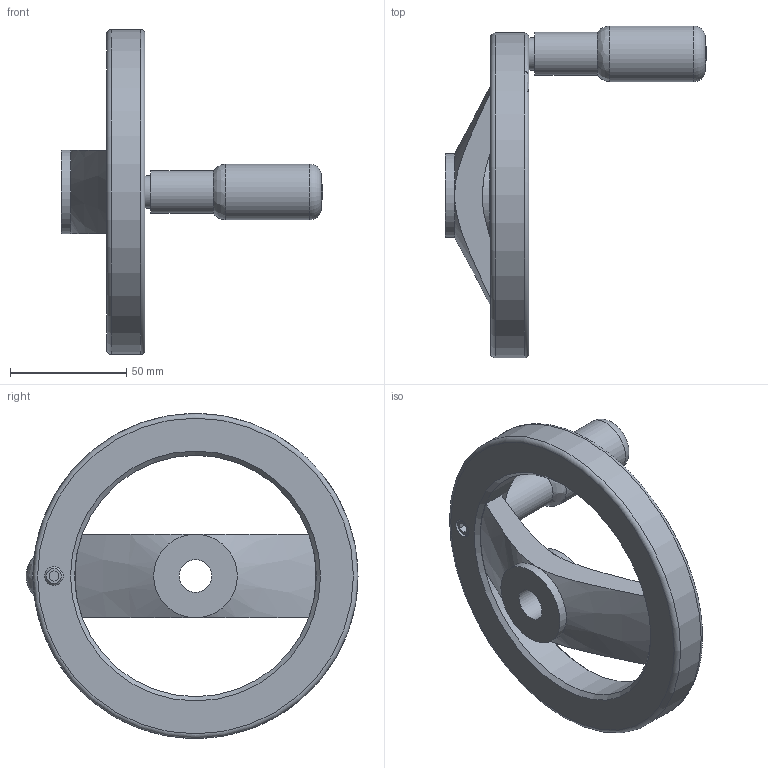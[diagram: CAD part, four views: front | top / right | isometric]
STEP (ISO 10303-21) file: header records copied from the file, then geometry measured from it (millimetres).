
FILE_DESCRIPTION( ( 'STEP AP203' ), '1' );
FILE_NAME( 'C:/Temp/Ganter_Step_05_03_2020/data/1_3/gn_324/gn_324_b/gn_324_b_d/Handwheel, matt black GN 324-140-B14-R.stp', '2020-03-05T10:32:56', ( 'License CC BY-ND 4.0' ), ( 'CADENAS' ), ' ', 'PARTsolutions', ' ' );
FILE_SCHEMA( ( 'CONFIG_CONTROL_DESIGN' ) );
Length unit declared in the file: millimetre
Products named in the file (1): _Handwheel, matt black GN 324-140-B14-R
Bounding box: 112.5 x 143 x 140 mm (x, y, z)
Volume: 185013.3 mm3; surface area: 41536.2 mm2
Topology: 1 solids, 2 shells, 40 faces, 88 edges, 53 vertices
Faces by surface type: plane 16, cylinder 11, cone 8, torus 3, bspline 1, sphere 1
Full cylindrical faces by diameter (mm): 6.446 x1, 8 x2, 14 x2, 18.5 x1, 24 x1, 36 x2, 104 x1, 140 x1
Entity records: 1171 total; most frequent: CARTESIAN_POINT 330, DIRECTION 170, ORIENTED_EDGE 128, AXIS2_PLACEMENT_3D 74, EDGE_LOOP 69, EDGE_CURVE 64, FACE_OUTER_BOUND 55, VERTEX_POINT 50
